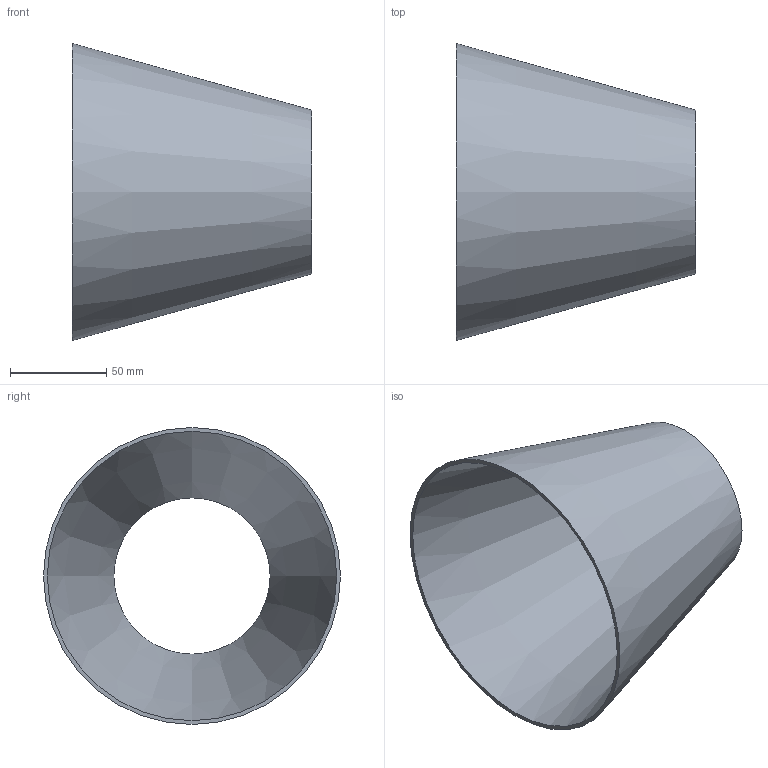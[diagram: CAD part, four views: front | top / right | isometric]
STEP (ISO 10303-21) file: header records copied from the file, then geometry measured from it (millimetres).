
FILE_DESCRIPTION(('FreeCAD Model'),'2;1');
FILE_NAME( '/home/martin/Documents/proyect/accesorios/stp/red-con_DN150-80.step', '2017-12-31T12:24:08',('Author'),(''), 'Open CASCADE STEP processor 6.8','FreeCAD','Unknown');
FILE_SCHEMA(('AUTOMOTIVE_DESIGN_CC2 { 1 2 10303 214 -1 1 5 4 }'));
Length unit declared in the file: millimetre
Products named in the file (1): red-con_DN150-80
Bounding box: 124 x 154 x 154 mm (x, y, z)
Volume: 91546 mm3; surface area: 96499.8 mm2
Topology: 1 solids, 1 shells, 4 faces, 6 edges, 4 vertices
Faces by surface type: cone 2, plane 2
Entity records: 191 total; most frequent: CARTESIAN_POINT 33, DIRECTION 26, ORIENTED_EDGE 12, PCURVE 12, DEFINITIONAL_REPRESENTATION 12, AXIS2_PLACEMENT_3D 9, CIRCLE 8, FACE_BOUND 6
